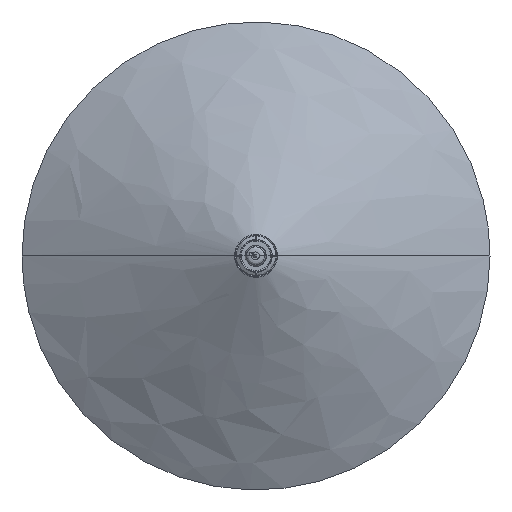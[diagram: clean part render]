
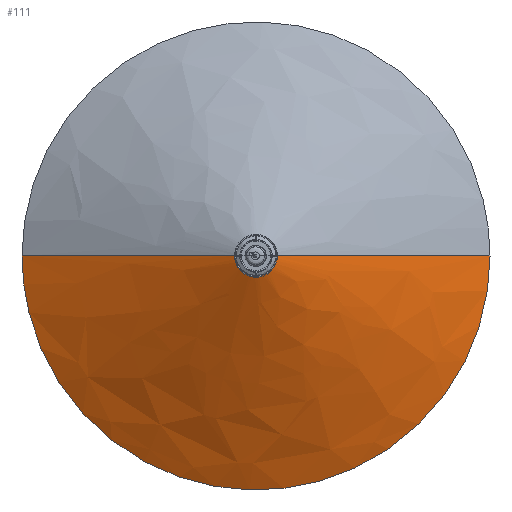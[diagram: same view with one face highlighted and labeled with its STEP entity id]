
A CAD part, top view. The second image highlights one B-rep face of the part: STEP entity #111.
In plain terms, the highlighted free-form (B-spline) face has degree [2, 1] with [5, 2] control points.
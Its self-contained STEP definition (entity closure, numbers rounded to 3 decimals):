
#111=ADVANCED_FACE('',(#164),#689,.T.);
#164=FACE_OUTER_BOUND('',#219,.T.);
#219=EDGE_LOOP('',(#398,#399,#400,#401));
#398=ORIENTED_EDGE('',*,*,#493,.T.);
#399=ORIENTED_EDGE('',*,*,#490,.T.);
#400=ORIENTED_EDGE('',*,*,#491,.T.);
#401=ORIENTED_EDGE('',*,*,#492,.F.);
#490=EDGE_CURVE('',#650,#651,#594,.T.);
#491=EDGE_CURVE('',#651,#653,#575,.T.);
#492=EDGE_CURVE('',#652,#653,#595,.T.);
#493=EDGE_CURVE('',#652,#650,#576,.T.);
#575=(
BOUNDED_CURVE()
B_SPLINE_CURVE(2,(#1958,#1959,#1960,#1961,#1962),.UNSPECIFIED.,.F.,.F.)
B_SPLINE_CURVE_WITH_KNOTS((3,2,3),(-2827.029,-2120.272,
-1413.515),.UNSPECIFIED.)
CURVE()
GEOMETRIC_REPRESENTATION_ITEM()
RATIONAL_B_SPLINE_CURVE((1.,0.707,1.,0.707,1.))
REPRESENTATION_ITEM('')
);
#576=(
BOUNDED_CURVE()
B_SPLINE_CURVE(2,(#1965,#1966,#1967,#1968,#1969),.UNSPECIFIED.,.F.,.F.)
B_SPLINE_CURVE_WITH_KNOTS((3,2,3),(1413.515,2120.272,2827.029),
 .UNSPECIFIED.)
CURVE()
GEOMETRIC_REPRESENTATION_ITEM()
RATIONAL_B_SPLINE_CURVE((1.,0.707,1.,0.707,1.))
REPRESENTATION_ITEM('')
);
#594=B_SPLINE_CURVE_WITH_KNOTS('',1,(#1956,#1957),.UNSPECIFIED.,.F.,.F.,
(2,2),(0.,460.683),.UNSPECIFIED.);
#595=B_SPLINE_CURVE_WITH_KNOTS('',1,(#1963,#1964),.UNSPECIFIED.,.F.,.F.,
(2,2),(0.,460.683),.UNSPECIFIED.);
#650=VERTEX_POINT('',#1947);
#651=VERTEX_POINT('',#1948);
#652=VERTEX_POINT('',#1949);
#653=VERTEX_POINT('',#1950);
#689=(
BOUNDED_SURFACE()
B_SPLINE_SURFACE(2,1,((#1937,#1938),(#1939,#1940),(#1941,#1942),(#1943,
#1944),(#1945,#1946)),.UNSPECIFIED.,.F.,.F.,.F.)
B_SPLINE_SURFACE_WITH_KNOTS((3,2,3),(2,2),(1413.515,2120.272,
2827.029),(0.,460.683),.UNSPECIFIED.)
GEOMETRIC_REPRESENTATION_ITEM()
RATIONAL_B_SPLINE_SURFACE(((1.,1.),(0.707,0.707),
(1.,1.),(0.707,0.707),(1.,1.)))
REPRESENTATION_ITEM('')
SURFACE()
);
#1937=CARTESIAN_POINT('',(2930.094,0.,2083.172));
#1938=CARTESIAN_POINT('',(2520.06,0.,1873.171));
#1939=CARTESIAN_POINT('',(2930.094,-39.901,2083.172));
#1940=CARTESIAN_POINT('',(2520.06,-449.936,1873.171));
#1941=CARTESIAN_POINT('',(2969.996,-39.901,2083.172));
#1942=CARTESIAN_POINT('',(2969.996,-449.936,1873.171));
#1943=CARTESIAN_POINT('',(3009.897,-39.901,2083.172));
#1944=CARTESIAN_POINT('',(3419.931,-449.936,1873.171));
#1945=CARTESIAN_POINT('',(3009.897,0.,2083.172));
#1946=CARTESIAN_POINT('',(3419.931,0.,1873.171));
#1947=CARTESIAN_POINT('',(3009.897,0.,2083.172));
#1948=CARTESIAN_POINT('',(3419.931,0.,1873.171));
#1949=CARTESIAN_POINT('',(2930.094,0.,2083.172));
#1950=CARTESIAN_POINT('',(2520.06,0.,1873.171));
#1956=CARTESIAN_POINT('',(3009.897,0.,2083.172));
#1957=CARTESIAN_POINT('',(3419.931,0.,1873.171));
#1958=CARTESIAN_POINT('',(3419.931,0.,1873.171));
#1959=CARTESIAN_POINT('',(3419.931,-449.936,1873.171));
#1960=CARTESIAN_POINT('',(2969.996,-449.936,1873.171));
#1961=CARTESIAN_POINT('',(2520.06,-449.936,1873.171));
#1962=CARTESIAN_POINT('',(2520.06,0.,1873.171));
#1963=CARTESIAN_POINT('',(2930.094,0.,2083.172));
#1964=CARTESIAN_POINT('',(2520.06,0.,1873.171));
#1965=CARTESIAN_POINT('',(2930.094,0.,2083.172));
#1966=CARTESIAN_POINT('',(2930.094,-39.901,2083.172));
#1967=CARTESIAN_POINT('',(2969.996,-39.901,2083.172));
#1968=CARTESIAN_POINT('',(3009.897,-39.901,2083.172));
#1969=CARTESIAN_POINT('',(3009.897,0.,2083.172));
